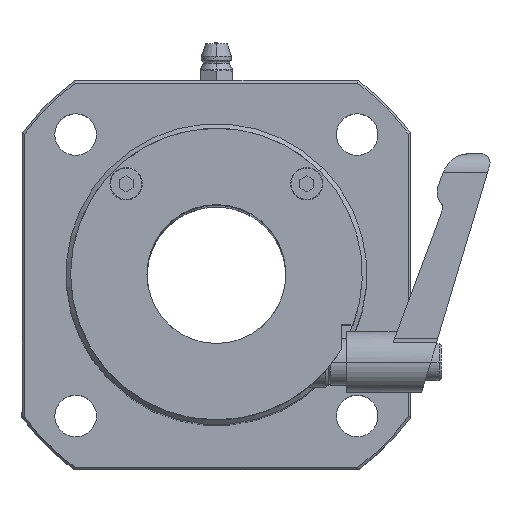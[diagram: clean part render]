
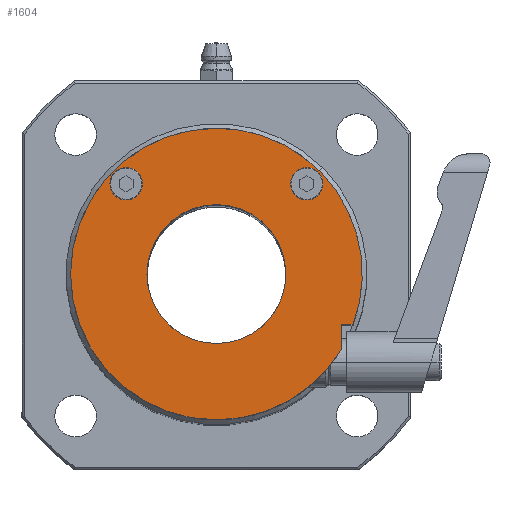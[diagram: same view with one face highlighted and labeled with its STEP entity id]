
A CAD part, top view. The second image highlights one B-rep face of the part: STEP entity #1604.
In plain terms, the highlighted planar face has unit normal (0, 0, 1).
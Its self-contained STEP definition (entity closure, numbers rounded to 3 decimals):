
#71 = CARTESIAN_POINT ( 'NONE',  ( 13.904, 20.022, 70.5 ) ) ;
#230 = CIRCLE ( 'NONE', #3501, 31.5 ) ;
#519 = VERTEX_POINT ( 'NONE', #654 ) ;
#585 = VERTEX_POINT ( 'NONE', #8475 ) ;
#654 = CARTESIAN_POINT ( 'NONE',  ( -5.596, -14.478, 70.5 ) ) ;
#706 = VERTEX_POINT ( 'NONE', #2254 ) ;
#838 = DIRECTION ( 'NONE',  ( 0., 0., 1. ) ) ;
#864 = VECTOR ( 'NONE', #6658, 1000. ) ;
#981 = EDGE_CURVE ( 'NONE', #1824, #1773, #1614, .T. ) ;
#1098 = EDGE_CURVE ( 'NONE', #519, #7895, #10524, .T. ) ;
#1136 = DIRECTION ( 'NONE',  ( 0., 0., 1. ) ) ;
#1395 = EDGE_CURVE ( 'NONE', #706, #3337, #11710, .T. ) ;
#1544 = CARTESIAN_POINT ( 'NONE',  ( -5.596, 0.522, 70.5 ) ) ;
#1568 = CARTESIAN_POINT ( 'NONE',  ( -28.596, 20.022, 70.5 ) ) ;
#1570 = EDGE_CURVE ( 'NONE', #8885, #6805, #12531, .T. ) ;
#1582 = ORIENTED_EDGE ( 'NONE', *, *, #1395, .F. ) ;
#1604 = ADVANCED_FACE ( 'NONE', ( #3359, #11181, #2450, #6241 ), #7389, .T. ) ;
#1614 = CIRCLE ( 'NONE', #8293, 31.5 ) ;
#1756 = DIRECTION ( 'NONE',  ( 0., 0., 1. ) ) ;
#1773 = VERTEX_POINT ( 'NONE', #11924 ) ;
#1824 = VERTEX_POINT ( 'NONE', #5220 ) ;
#1879 = EDGE_LOOP ( 'NONE', ( #11244, #6975 ) ) ;
#1931 = CARTESIAN_POINT ( 'NONE',  ( -5.596, 0.522, 70.5 ) ) ;
#2254 = CARTESIAN_POINT ( 'NONE',  ( 10.404, 20.022, 70.5 ) ) ;
#2356 = AXIS2_PLACEMENT_3D ( 'NONE', #6296, #1136, #11107 ) ;
#2434 = AXIS2_PLACEMENT_3D ( 'NONE', #1931, #8706, #3091 ) ;
#2450 = FACE_OUTER_BOUND ( 'NONE', #7608, .T. ) ;
#2593 = DIRECTION ( 'NONE',  ( 0., 0., 1. ) ) ;
#2620 = ORIENTED_EDGE ( 'NONE', *, *, #12229, .F. ) ;
#2725 = DIRECTION ( 'NONE',  ( 0., -1., 0. ) ) ;
#2758 = DIRECTION ( 'NONE',  ( -1., 0., 0. ) ) ;
#2832 = CARTESIAN_POINT ( 'NONE',  ( 21.404, -10.478, 70.5 ) ) ;
#3091 = DIRECTION ( 'NONE',  ( 0., -1., 0. ) ) ;
#3165 = DIRECTION ( 'NONE',  ( 0., 0., 1. ) ) ;
#3194 = CARTESIAN_POINT ( 'NONE',  ( -5.596, 15.522, 70.5 ) ) ;
#3337 = VERTEX_POINT ( 'NONE', #5689 ) ;
#3353 = CIRCLE ( 'NONE', #2356, 3.5 ) ;
#3359 = FACE_BOUND ( 'NONE', #3622, .T. ) ;
#3377 = CIRCLE ( 'NONE', #11619, 31.5 ) ;
#3471 = VERTEX_POINT ( 'NONE', #9618 ) ;
#3501 = AXIS2_PLACEMENT_3D ( 'NONE', #6716, #5704, #9570 ) ;
#3622 = EDGE_LOOP ( 'NONE', ( #1582, #8369 ) ) ;
#3976 = DIRECTION ( 'NONE',  ( 1., 0., 0. ) ) ;
#3994 = LINE ( 'NONE', #2832, #864 ) ;
#4008 = EDGE_LOOP ( 'NONE', ( #6554, #9706 ) ) ;
#4539 = ORIENTED_EDGE ( 'NONE', *, *, #981, .T. ) ;
#5220 = CARTESIAN_POINT ( 'NONE',  ( -5.596, -30.978, 70.5 ) ) ;
#5355 = EDGE_CURVE ( 'NONE', #585, #7598, #230, .T. ) ;
#5689 = CARTESIAN_POINT ( 'NONE',  ( 17.404, 20.022, 70.5 ) ) ;
#5704 = DIRECTION ( 'NONE',  ( 0., 0., 1. ) ) ;
#5768 = AXIS2_PLACEMENT_3D ( 'NONE', #5900, #11779, #6797 ) ;
#5857 = AXIS2_PLACEMENT_3D ( 'NONE', #8526, #1756, #6632 ) ;
#5900 = CARTESIAN_POINT ( 'NONE',  ( -5.596, 0.522, 70.5 ) ) ;
#6051 = DIRECTION ( 'NONE',  ( 0., 0., 1. ) ) ;
#6241 = FACE_BOUND ( 'NONE', #4008, .T. ) ;
#6296 = CARTESIAN_POINT ( 'NONE',  ( -25.096, 20.022, 70.5 ) ) ;
#6554 = ORIENTED_EDGE ( 'NONE', *, *, #7408, .F. ) ;
#6622 = EDGE_CURVE ( 'NONE', #3471, #1773, #3994, .T. ) ;
#6632 = DIRECTION ( 'NONE',  ( 0., -1., 0. ) ) ;
#6658 = DIRECTION ( 'NONE',  ( 0., -1., 0. ) ) ;
#6716 = CARTESIAN_POINT ( 'NONE',  ( -5.596, 0.522, 70.5 ) ) ;
#6728 = ORIENTED_EDGE ( 'NONE', *, *, #9704, .T. ) ;
#6797 = DIRECTION ( 'NONE',  ( 0., -1., 0. ) ) ;
#6805 = VERTEX_POINT ( 'NONE', #1568 ) ;
#6975 = ORIENTED_EDGE ( 'NONE', *, *, #1570, .F. ) ;
#7026 = CARTESIAN_POINT ( 'NONE',  ( -5.596, 32.022, 70.5 ) ) ;
#7056 = AXIS2_PLACEMENT_3D ( 'NONE', #7312, #2593, #9169 ) ;
#7061 = CARTESIAN_POINT ( 'NONE',  ( 13.904, 20.022, 70.5 ) ) ;
#7148 = CIRCLE ( 'NONE', #9591, 3.5 ) ;
#7312 = CARTESIAN_POINT ( 'NONE',  ( -25.096, 20.022, 70.5 ) ) ;
#7389 = PLANE ( 'NONE',  #5857 ) ;
#7408 = EDGE_CURVE ( 'NONE', #7895, #519, #11424, .T. ) ;
#7502 = DIRECTION ( 'NONE',  ( 0., 0., 1. ) ) ;
#7598 = VERTEX_POINT ( 'NONE', #7026 ) ;
#7608 = EDGE_LOOP ( 'NONE', ( #11140, #2620, #11018, #6728, #4539 ) ) ;
#7694 = DIRECTION ( 'NONE',  ( 1., 0., 0. ) ) ;
#7874 = CARTESIAN_POINT ( 'NONE',  ( -5.596, 0.522, 70.5 ) ) ;
#7895 = VERTEX_POINT ( 'NONE', #3194 ) ;
#8293 = AXIS2_PLACEMENT_3D ( 'NONE', #7874, #3165, #9082 ) ;
#8303 = EDGE_CURVE ( 'NONE', #3337, #706, #7148, .T. ) ;
#8369 = ORIENTED_EDGE ( 'NONE', *, *, #8303, .F. ) ;
#8475 = CARTESIAN_POINT ( 'NONE',  ( 23.921, -10.478, 70.5 ) ) ;
#8526 = CARTESIAN_POINT ( 'NONE',  ( -5.596, 0.522, 70.5 ) ) ;
#8706 = DIRECTION ( 'NONE',  ( 0., 0., 1. ) ) ;
#8885 = VERTEX_POINT ( 'NONE', #10414 ) ;
#9082 = DIRECTION ( 'NONE',  ( 0., -1., 0. ) ) ;
#9169 = DIRECTION ( 'NONE',  ( 1., 0., 0. ) ) ;
#9292 = AXIS2_PLACEMENT_3D ( 'NONE', #7061, #6051, #3976 ) ;
#9567 = CARTESIAN_POINT ( 'NONE',  ( 21.404, -10.478, 70.5 ) ) ;
#9570 = DIRECTION ( 'NONE',  ( 0., -1., 0. ) ) ;
#9591 = AXIS2_PLACEMENT_3D ( 'NONE', #71, #838, #7694 ) ;
#9618 = CARTESIAN_POINT ( 'NONE',  ( 21.404, -10.478, 70.5 ) ) ;
#9638 = EDGE_CURVE ( 'NONE', #6805, #8885, #3353, .T. ) ;
#9704 = EDGE_CURVE ( 'NONE', #7598, #1824, #3377, .T. ) ;
#9706 = ORIENTED_EDGE ( 'NONE', *, *, #1098, .F. ) ;
#10408 = VECTOR ( 'NONE', #2758, 1000. ) ;
#10414 = CARTESIAN_POINT ( 'NONE',  ( -21.596, 20.022, 70.5 ) ) ;
#10524 = CIRCLE ( 'NONE', #2434, 15. ) ;
#11018 = ORIENTED_EDGE ( 'NONE', *, *, #5355, .T. ) ;
#11107 = DIRECTION ( 'NONE',  ( 1., 0., 0. ) ) ;
#11140 = ORIENTED_EDGE ( 'NONE', *, *, #6622, .F. ) ;
#11181 = FACE_BOUND ( 'NONE', #1879, .T. ) ;
#11244 = ORIENTED_EDGE ( 'NONE', *, *, #9638, .F. ) ;
#11396 = LINE ( 'NONE', #9567, #10408 ) ;
#11424 = CIRCLE ( 'NONE', #5768, 15. ) ;
#11619 = AXIS2_PLACEMENT_3D ( 'NONE', #1544, #7502, #2725 ) ;
#11710 = CIRCLE ( 'NONE', #9292, 3.5 ) ;
#11779 = DIRECTION ( 'NONE',  ( 0., 0., 1. ) ) ;
#11924 = CARTESIAN_POINT ( 'NONE',  ( 21.404, -15.703, 70.5 ) ) ;
#12229 = EDGE_CURVE ( 'NONE', #585, #3471, #11396, .T. ) ;
#12531 = CIRCLE ( 'NONE', #7056, 3.5 ) ;
